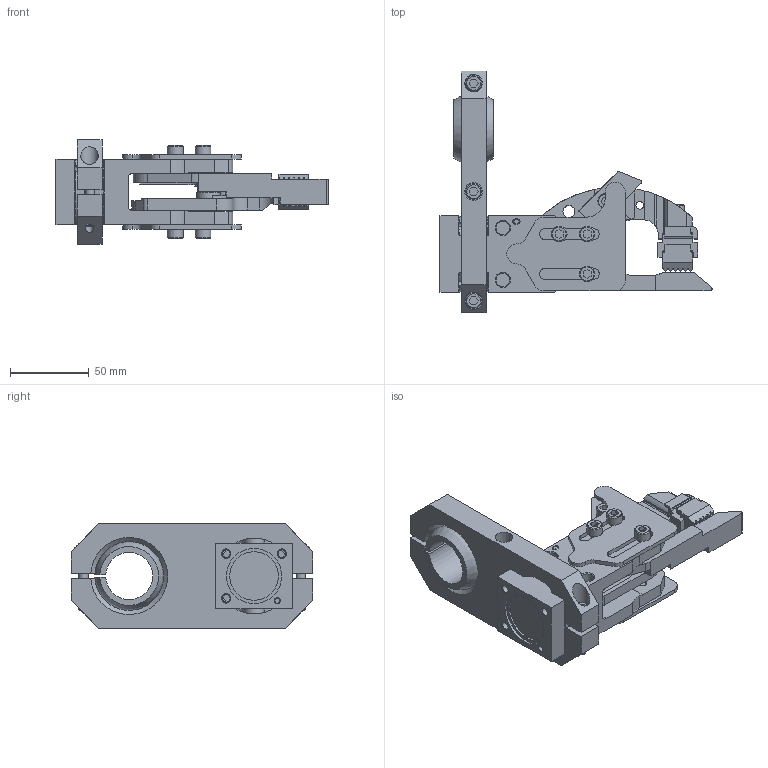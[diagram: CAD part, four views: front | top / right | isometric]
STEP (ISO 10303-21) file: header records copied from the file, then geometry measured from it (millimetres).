
FILE_DESCRIPTION(/* description */ ('STEP AP214'),/* implementation_level */ '2;1');
FILE_NAME(/* name */ 'GRM2TH-6-45SDS-00-M01-CLOSED',/* time_stamp */ '2025-01-15T11:30:57+01:00',/* author */ ('License CC BY-ND 4.0'),/* organization */ ('CADENAS'),/* preprocessor_version */ 'ST-DEVELOPER v19.3',/* originating_system */ 'PARTsolutions',/* authorisation */ ' ');
FILE_SCHEMA (('AUTOMOTIVE_DESIGN {1 0 10303 214 3 1 1}'));
Length unit declared in the file: millimetre
Products named in the file (14): GRM2TH-6-45SDS-00-M01-CLOSED; BD_GRM2TH-6-45SDS-00-M01-CLOSED; MET_JAW_STD_ROT_GRM2; TIP_EXT_GRM2_M; SDS_M_GRM2; PN74675-455_M_LHCSM8x1.25x35; GRM_stopblock_63962-03_m; PN59104-118_M_SHCSM6x1x20; MET_JAW_H_FIXED_GRM2_65233-01; PN59104-114_M_SHCSM6x1x10; GRM2_STD_IMP_PLATE_63952-01_M; MTG_BRKT_GRM2-6-T-M01; PN59104-025_M_SHCSM6x1x30; BALL_GRM2_DESIGN_6_M01
Assembly tree (21 placements, depth 2):
  GRM2TH-6-45SDS-00-M01-CLOSED
    BD_GRM2TH-6-45SDS-00-M01-CLOSED
    MET_JAW_STD_ROT_GRM2
    TIP_EXT_GRM2_M
    SDS_M_GRM2
    PN74675-455_M_LHCSM8x1.25x35
    GRM_stopblock_63962-03_m
    PN59104-118_M_SHCSM6x1x20
    MET_JAW_H_FIXED_GRM2_65233-01
    PN59104-114_M_SHCSM6x1x10  x6
    GRM2_STD_IMP_PLATE_63952-01_M  x2
    MTG_BRKT_GRM2-6-T-M01
    PN59104-025_M_SHCSM6x1x30  x3
    BALL_GRM2_DESIGN_6_M01
Bounding box: 173.2 x 154 x 66.5 mm (x, y, z)
Volume: 328208.5 mm3; surface area: 113949.9 mm2
Topology: 21 solids, 21 shells, 759 faces, 1953 edges, 1268 vertices
Faces by surface type: plane 471, cylinder 229, cone 47, torus 10, sphere 2
Full cylindrical faces by diameter (mm): 1.194 x1, 3.175 x1, 3.861 x2, 4.917 x16, 5.588 x1, 6 x10, 6.02 x1, 6.35 x1, 6.647 x1, 6.807 x3, 7.671 x2, 8 x1, 8.042 x2, 8.103 x3, 8.566 x2, 8.992 x2, 10 x10, 11.125 x3, 13 x1, 14.275 x1, 30.912 x1, 35.23 x1
Entity records: 21477 total; most frequent: CARTESIAN_POINT 3589, DIRECTION 3314, ORIENTED_EDGE 3164, EDGE_CURVE 1582, AXIS2_PLACEMENT_3D 1137, VERTEX_POINT 1079, LINE 1040, VECTOR 1040
